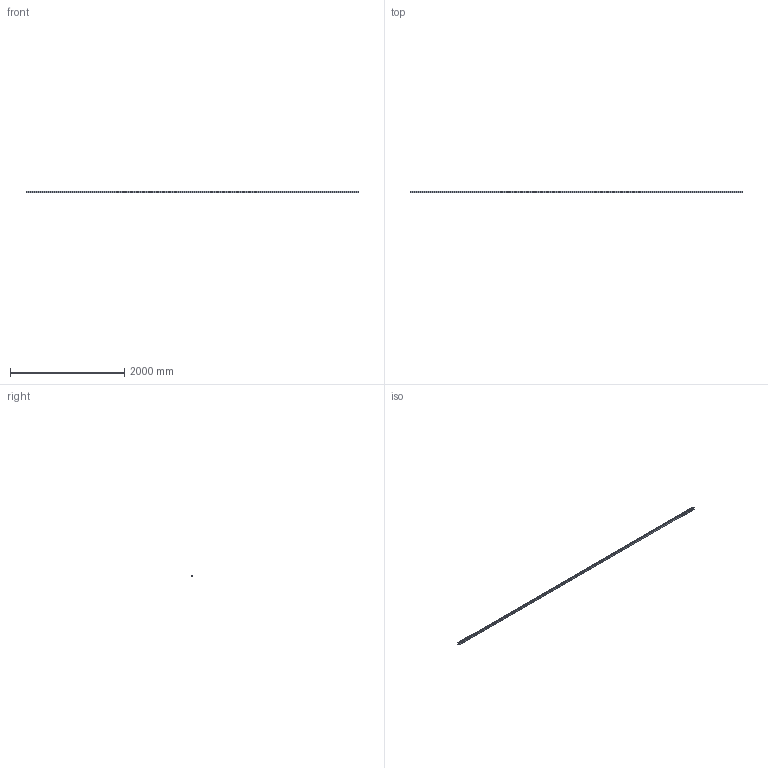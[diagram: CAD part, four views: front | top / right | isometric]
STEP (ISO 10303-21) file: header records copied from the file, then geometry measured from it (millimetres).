
FILE_DESCRIPTION(('STEP AP242'),'1');
FILE_NAME('OPO_65.081.04_volu_schn_3d.stp','2026-01-30T20:48:55',(' '),(' '),'Spatial InterOp 3D',' ',' ');
FILE_SCHEMA(('AP242_MANAGED_MODEL_BASED_3D_ENGINEERING_MIM_LF {1 0 10303 442 1 1 4}'));
Length unit declared in the file: millimetre
Products named in the file (1): 1
Bounding box: 5800 x 33 x 33 mm (x, y, z)
Volume: 1654087.5 mm3; surface area: 1348552.8 mm2
Topology: 1 solids, 1 shells, 76 faces, 360 edges, 442 vertices
Faces by surface type: plane 56, cylinder 20
Entity records: 4871 total; most frequent: CARTESIAN_POINT 576, DIRECTION 576, ORIENTED_EDGE 416, LINE 300, VECTOR 300, STYLED_ITEM 228, PRESENTATION_STYLE_ASSIGNMENT 228, COLOUR_RGB 228
